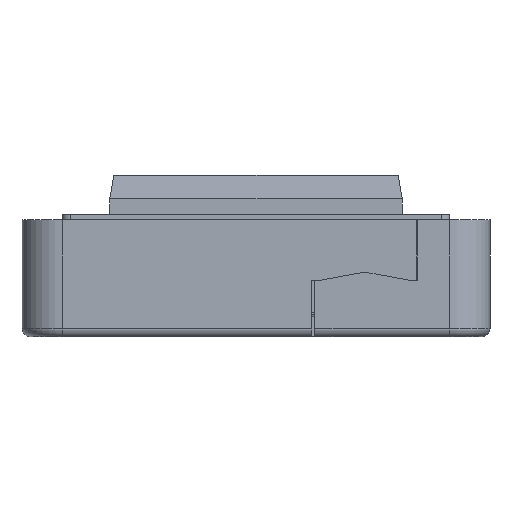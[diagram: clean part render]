
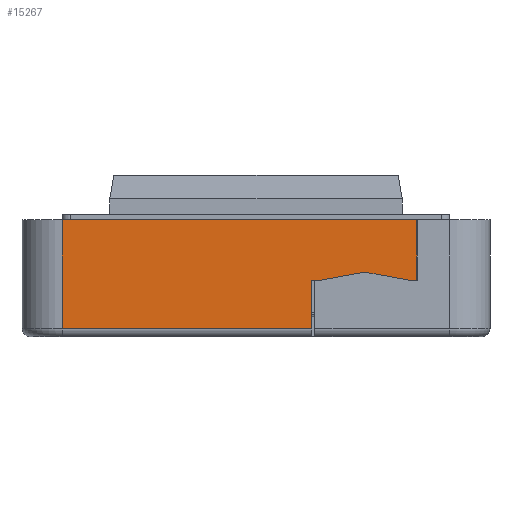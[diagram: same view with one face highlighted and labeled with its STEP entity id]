
A CAD part, left-side view. The second image highlights one B-rep face of the part: STEP entity #15267.
In plain terms, the highlighted planar face has unit normal (-1, 0, 0) as drawn and (1, 0, 0) by its records, which use the part's own axes.
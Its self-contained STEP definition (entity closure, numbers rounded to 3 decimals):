
#1093=FACE_OUTER_BOUND('',#1931,.T.);
#1931=EDGE_LOOP('',(#10138,#10139,#10140,#10141,#10142,#10143,#10144,#10145,
#10146));
#2863=LINE('',#21483,#4563);
#2869=LINE('',#21495,#4569);
#2872=LINE('',#21501,#4572);
#2873=LINE('',#21503,#4573);
#2874=LINE('',#21505,#4574);
#2875=LINE('',#21507,#4575);
#2876=LINE('',#21509,#4576);
#2877=LINE('',#21511,#4577);
#2878=LINE('',#21512,#4578);
#4563=VECTOR('',#17395,10.);
#4569=VECTOR('',#17403,10.);
#4572=VECTOR('',#17408,10.);
#4573=VECTOR('',#17409,10.);
#4574=VECTOR('',#17410,10.);
#4575=VECTOR('',#17411,10.);
#4576=VECTOR('',#17412,10.);
#4577=VECTOR('',#17413,10.);
#4578=VECTOR('',#17414,10.);
#6254=VERTEX_POINT('',#21481);
#6255=VERTEX_POINT('',#21482);
#6260=VERTEX_POINT('',#21494);
#6262=VERTEX_POINT('',#21500);
#6263=VERTEX_POINT('',#21502);
#6264=VERTEX_POINT('',#21504);
#6265=VERTEX_POINT('',#21506);
#6266=VERTEX_POINT('',#21508);
#6267=VERTEX_POINT('',#21510);
#7800=EDGE_CURVE('',#6254,#6255,#2863,.T.);
#7806=EDGE_CURVE('',#6260,#6254,#2869,.T.);
#7809=EDGE_CURVE('',#6262,#6255,#2872,.T.);
#7810=EDGE_CURVE('',#6263,#6262,#2873,.T.);
#7811=EDGE_CURVE('',#6264,#6263,#2874,.T.);
#7812=EDGE_CURVE('',#6264,#6265,#2875,.T.);
#7813=EDGE_CURVE('',#6265,#6266,#2876,.T.);
#7814=EDGE_CURVE('',#6266,#6267,#2877,.T.);
#7815=EDGE_CURVE('',#6267,#6260,#2878,.T.);
#10138=ORIENTED_EDGE('',*,*,#7800,.T.);
#10139=ORIENTED_EDGE('',*,*,#7809,.F.);
#10140=ORIENTED_EDGE('',*,*,#7810,.F.);
#10141=ORIENTED_EDGE('',*,*,#7811,.F.);
#10142=ORIENTED_EDGE('',*,*,#7812,.T.);
#10143=ORIENTED_EDGE('',*,*,#7813,.T.);
#10144=ORIENTED_EDGE('',*,*,#7814,.T.);
#10145=ORIENTED_EDGE('',*,*,#7815,.T.);
#10146=ORIENTED_EDGE('',*,*,#7806,.T.);
#14698=PLANE('',#16170);
#15267=ADVANCED_FACE('',(#1093),#14698,.T.);
#16170=AXIS2_PLACEMENT_3D('',#21499,#17406,#17407);
#17395=DIRECTION('',(0.,0.,1.));
#17403=DIRECTION('',(0.,1.,0.));
#17406=DIRECTION('center_axis',(1.,0.,0.));
#17407=DIRECTION('ref_axis',(0.,0.,-1.));
#17408=DIRECTION('',(0.,1.,0.));
#17409=DIRECTION('',(0.,0.,1.));
#17410=DIRECTION('',(0.,-1.,0.));
#17411=DIRECTION('',(0.,0.,1.));
#17412=DIRECTION('',(0.,1.,0.));
#17413=DIRECTION('',(0.,0.984,0.179));
#17414=DIRECTION('',(0.,0.984,-0.179));
#21481=CARTESIAN_POINT('',(74.,19.9,-8.));
#21482=CARTESIAN_POINT('',(74.,19.9,-0.5));
#21483=CARTESIAN_POINT('',(74.,19.9,-2.554));
#21494=CARTESIAN_POINT('',(74.,19.,-8.));
#21495=CARTESIAN_POINT('',(74.,-3.75,-8.));
#21499=CARTESIAN_POINT('Origin',(74.,-27.5,0.));
#21500=CARTESIAN_POINT('',(74.,-24.,-0.5));
#21501=CARTESIAN_POINT('',(74.,-29.,-0.5));
#21502=CARTESIAN_POINT('',(74.,-24.,-14.));
#21503=CARTESIAN_POINT('',(74.,-24.,-0.25));
#21504=CARTESIAN_POINT('',(74.,6.9,-14.));
#21505=CARTESIAN_POINT('',(74.,-13.75,-14.));
#21506=CARTESIAN_POINT('',(74.,6.9,-8.));
#21507=CARTESIAN_POINT('',(74.,6.9,-5.943));
#21508=CARTESIAN_POINT('',(74.,8.,-8.));
#21509=CARTESIAN_POINT('',(74.,-3.75,-8.));
#21510=CARTESIAN_POINT('',(74.,13.5,-7.));
#21511=CARTESIAN_POINT('',(74.,-5.728,-10.496));
#21512=CARTESIAN_POINT('',(74.,-4.21,-3.78));
